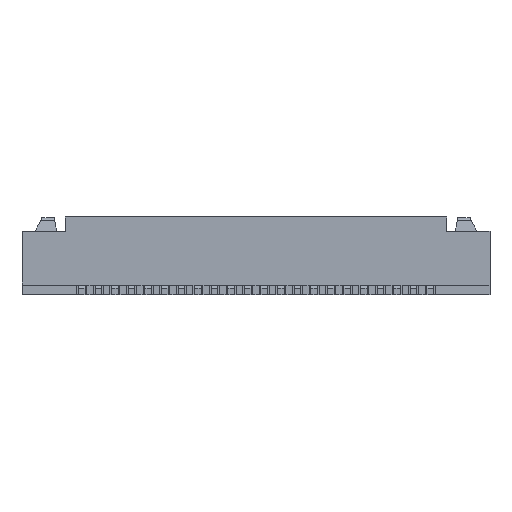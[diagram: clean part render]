
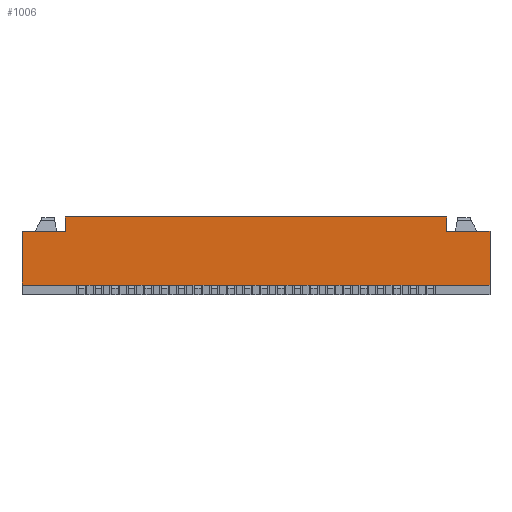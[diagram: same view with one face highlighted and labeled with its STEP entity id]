
A CAD part, front view. The second image highlights one B-rep face of the part: STEP entity #1006.
In plain terms, the highlighted planar face has unit normal (0, -1, 0).
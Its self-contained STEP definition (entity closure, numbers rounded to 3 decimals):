
#399=CARTESIAN_POINT('Vertex',(-5.75,-2.4,1.92)) ;
#402=CARTESIAN_POINT('Line Origine',(-5.75,-2.4,2.135)) ;
#406=CARTESIAN_POINT('Vertex',(-5.75,-2.4,2.35)) ;
#944=CARTESIAN_POINT('Axis2P3D Location',(0.,-2.4,0.3)) ;
#949=CARTESIAN_POINT('Line Origine',(-6.4,-2.4,1.92)) ;
#953=CARTESIAN_POINT('Vertex',(-7.05,-2.4,1.92)) ;
#956=CARTESIAN_POINT('Line Origine',(-7.05,-2.4,1.11)) ;
#960=CARTESIAN_POINT('Vertex',(-7.05,-2.4,0.3)) ;
#963=CARTESIAN_POINT('Line Origine',(0.,-2.4,0.3)) ;
#967=CARTESIAN_POINT('Vertex',(7.05,-2.4,0.3)) ;
#970=CARTESIAN_POINT('Line Origine',(7.05,-2.4,1.11)) ;
#974=CARTESIAN_POINT('Vertex',(7.05,-2.4,1.92)) ;
#977=CARTESIAN_POINT('Line Origine',(6.4,-2.4,1.92)) ;
#981=CARTESIAN_POINT('Vertex',(5.75,-2.4,1.92)) ;
#984=CARTESIAN_POINT('Line Origine',(5.75,-2.4,2.135)) ;
#988=CARTESIAN_POINT('Vertex',(5.75,-2.4,2.35)) ;
#991=CARTESIAN_POINT('Line Origine',(0.,-2.4,2.35)) ;
#403=DIRECTION('Vector Direction',(0.,0.,-1.)) ;
#945=DIRECTION('Axis2P3D Direction',(0.,1.,0.)) ;
#946=DIRECTION('Axis2P3D XDirection',(0.,0.,1.)) ;
#950=DIRECTION('Vector Direction',(1.,0.,0.)) ;
#957=DIRECTION('Vector Direction',(0.,0.,1.)) ;
#964=DIRECTION('Vector Direction',(1.,0.,0.)) ;
#971=DIRECTION('Vector Direction',(0.,0.,1.)) ;
#978=DIRECTION('Vector Direction',(-1.,0.,0.)) ;
#985=DIRECTION('Vector Direction',(0.,0.,-1.)) ;
#992=DIRECTION('Vector Direction',(1.,0.,0.)) ;
#947=AXIS2_PLACEMENT_3D('Plane Axis2P3D',#944,#945,#946) ;
#997=ORIENTED_EDGE('',*,*,#408,.T.) ;
#998=ORIENTED_EDGE('',*,*,#955,.F.) ;
#999=ORIENTED_EDGE('',*,*,#962,.T.) ;
#1000=ORIENTED_EDGE('',*,*,#969,.T.) ;
#1001=ORIENTED_EDGE('',*,*,#976,.F.) ;
#1002=ORIENTED_EDGE('',*,*,#983,.T.) ;
#1003=ORIENTED_EDGE('',*,*,#990,.F.) ;
#1004=ORIENTED_EDGE('',*,*,#995,.F.) ;
#404=VECTOR('Line Direction',#403,1.) ;
#951=VECTOR('Line Direction',#950,1.) ;
#958=VECTOR('Line Direction',#957,1.) ;
#965=VECTOR('Line Direction',#964,1.) ;
#972=VECTOR('Line Direction',#971,1.) ;
#979=VECTOR('Line Direction',#978,1.) ;
#986=VECTOR('Line Direction',#985,1.) ;
#993=VECTOR('Line Direction',#992,1.) ;
#1006=ADVANCED_FACE('\X2\96F64EF651E04F554F53\X0\',(#1005),#948,.F.) ;
#408=EDGE_CURVE('',#407,#400,#405,.T.) ;
#955=EDGE_CURVE('',#954,#400,#952,.T.) ;
#962=EDGE_CURVE('',#954,#961,#959,.F.) ;
#969=EDGE_CURVE('',#961,#968,#966,.T.) ;
#976=EDGE_CURVE('',#975,#968,#973,.F.) ;
#983=EDGE_CURVE('',#975,#982,#980,.T.) ;
#990=EDGE_CURVE('',#989,#982,#987,.T.) ;
#995=EDGE_CURVE('',#407,#989,#994,.T.) ;
#996=EDGE_LOOP('',(#997,#998,#999,#1000,#1001,#1002,#1003,#1004)) ;
#1005=FACE_OUTER_BOUND('',#996,.T.) ;
#405=LINE('Line',#402,#404) ;
#952=LINE('Line',#949,#951) ;
#959=LINE('Line',#956,#958) ;
#966=LINE('Line',#963,#965) ;
#973=LINE('Line',#970,#972) ;
#980=LINE('Line',#977,#979) ;
#987=LINE('Line',#984,#986) ;
#994=LINE('Line',#991,#993) ;
#948=PLANE('Plane',#947) ;
#400=VERTEX_POINT('',#399) ;
#407=VERTEX_POINT('',#406) ;
#954=VERTEX_POINT('',#953) ;
#961=VERTEX_POINT('',#960) ;
#968=VERTEX_POINT('',#967) ;
#975=VERTEX_POINT('',#974) ;
#982=VERTEX_POINT('',#981) ;
#989=VERTEX_POINT('',#988) ;
